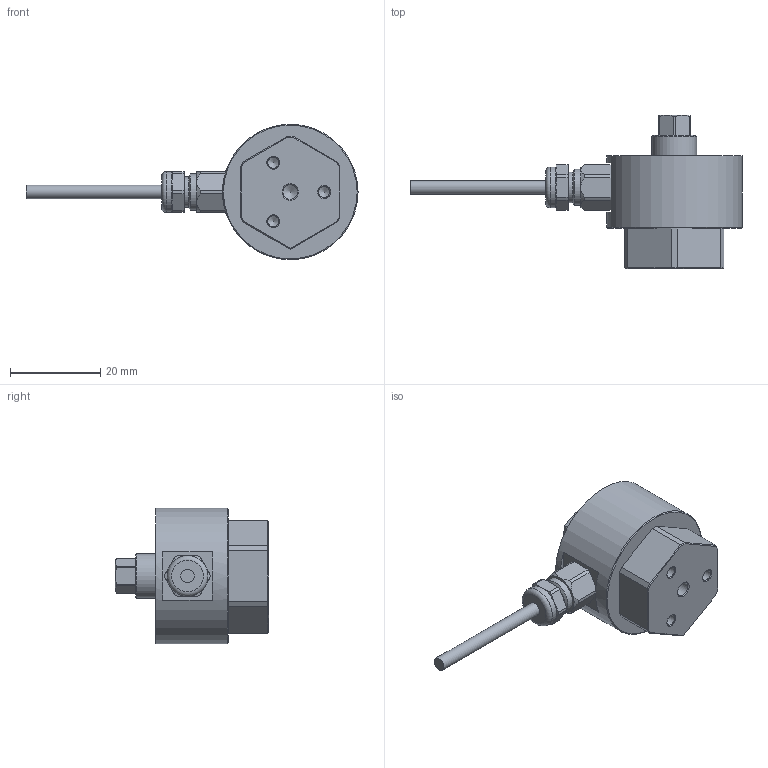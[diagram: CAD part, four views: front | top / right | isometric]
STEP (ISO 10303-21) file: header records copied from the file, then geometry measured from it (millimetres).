
FILE_DESCRIPTION(/* description */ (''),/* implementation_level */ '2;1');
FILE_NAME(/* name */ 'D:\Eigene Dateien\Test\8427\8427-5020 bis 5200.stp',/* time_stamp */ '2019-04-11T15:13:00+02:00',/* author */ ('lv'),/* organization */ (''),/* preprocessor_version */ 'ST-DEVELOPER v17',/* originating_system */ 'Autodesk Inventor 2019',/* authorisation */ '');
FILE_SCHEMA (('AUTOMOTIVE_DESIGN { 1 0 10303 214 3 1 1 }'));
Length unit declared in the file: millimetre
Products named in the file (1): 8427A.0000_Substitute_2
Bounding box: 73.5 x 33.99 x 30 mm (x, y, z)
Volume: 15724.8 mm3; surface area: 5329.8 mm2
Topology: 1 solids, 3 shells, 143 faces, 364 edges, 237 vertices
Faces by surface type: plane 76, cylinder 38, cone 24, torus 4, bspline 1
Full cylindrical faces by diameter (mm): 2 x1, 2.459 x3, 3 x1, 3.242 x2, 4.773 x1, 6.773 x1, 8 x1, 9 x1, 10 x1, 20 x1, 30 x1
Entity records: 4641 total; most frequent: CARTESIAN_POINT 994, DIRECTION 729, ORIENTED_EDGE 718, EDGE_CURVE 359, AXIS2_PLACEMENT_3D 266, VERTEX_POINT 237, LINE 197, VECTOR 197
